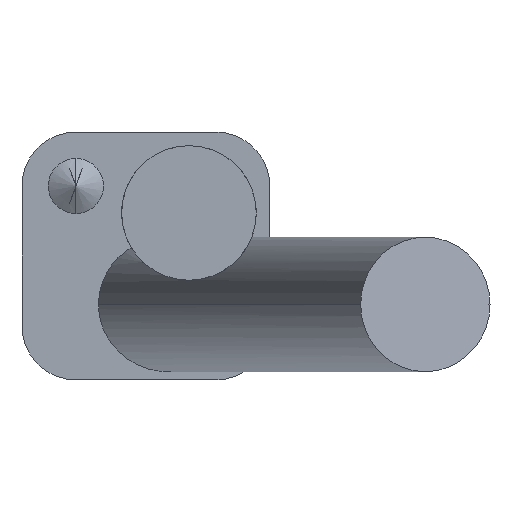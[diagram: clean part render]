
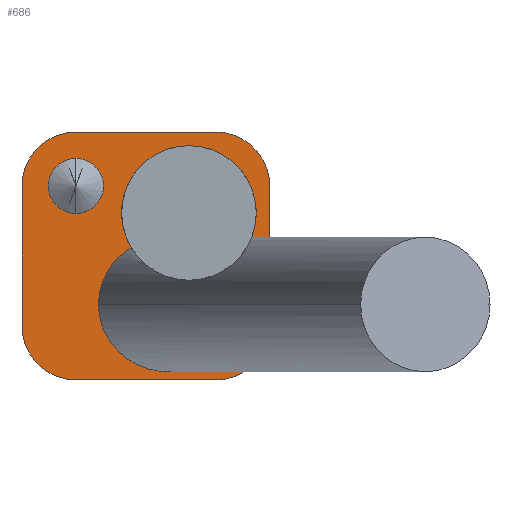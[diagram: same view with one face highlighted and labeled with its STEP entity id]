
A CAD part, front view. The second image highlights one B-rep face of the part: STEP entity #686.
In plain terms, the highlighted planar face has unit normal (0, -1, 0).
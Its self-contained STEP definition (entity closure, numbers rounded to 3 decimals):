
#2 = DIRECTION ( 'NONE',  ( 0., 0., -1. ) ) ;
#6 = EDGE_CURVE ( 'NONE', #66, #112, #7, .T. ) ;
#7 = CIRCLE ( 'NONE', #40, 10. ) ;
#11 = CARTESIAN_POINT ( 'NONE',  ( -13.012, 0., -13.012 ) ) ;
#12 = CIRCLE ( 'NONE', #601, 10. ) ;
#15 = AXIS2_PLACEMENT_3D ( 'NONE', #280, #339, #2 ) ;
#18 = LINE ( 'NONE', #375, #278 ) ;
#28 = ORIENTED_EDGE ( 'NONE', *, *, #127, .T. ) ;
#31 = CARTESIAN_POINT ( 'NONE',  ( -8.806, 0., -9. ) ) ;
#34 = PLANE ( 'NONE',  #434 ) ;
#39 = CARTESIAN_POINT ( 'NONE',  ( -13.012, 0., 13.012 ) ) ;
#40 = AXIS2_PLACEMENT_3D ( 'NONE', #395, #451, #190 ) ;
#50 = CARTESIAN_POINT ( 'NONE',  ( -2.726, 0., 1.581 ) ) ;
#53 = VECTOR ( 'NONE', #532, 1000. ) ;
#66 = VERTEX_POINT ( 'NONE', #556 ) ;
#68 = ORIENTED_EDGE ( 'NONE', *, *, #459, .T. ) ;
#70 = CARTESIAN_POINT ( 'NONE',  ( -13., 0., 13. ) ) ;
#78 = DIRECTION ( 'NONE',  ( 0., 0., -1. ) ) ;
#82 = CIRCLE ( 'NONE', #210, 12.5 ) ;
#93 = VERTEX_POINT ( 'NONE', #636 ) ;
#96 = CARTESIAN_POINT ( 'NONE',  ( 17.201, 0., -9. ) ) ;
#99 = DIRECTION ( 'NONE',  ( 0., 0., -1. ) ) ;
#100 = CARTESIAN_POINT ( 'NONE',  ( 13.012, 0., 23.012 ) ) ;
#102 = CARTESIAN_POINT ( 'NONE',  ( -23.012, 0., 13.012 ) ) ;
#105 = EDGE_CURVE ( 'NONE', #616, #488, #82, .T. ) ;
#110 = LINE ( 'NONE', #662, #53 ) ;
#112 = VERTEX_POINT ( 'NONE', #519 ) ;
#127 = EDGE_CURVE ( 'NONE', #382, #93, #697, .T. ) ;
#128 = CIRCLE ( 'NONE', #15, 10. ) ;
#147 = VERTEX_POINT ( 'NONE', #587 ) ;
#149 =( BOUNDED_CURVE ( )  B_SPLINE_CURVE ( 3, ( #239, #284, #385, #170 ),
 .UNSPECIFIED., .F., .T. ) 
 B_SPLINE_CURVE_WITH_KNOTS ( ( 4, 4 ),
 ( 2.572, 3.142 ),
 .UNSPECIFIED. ) 
 CURVE ( )  GEOMETRIC_REPRESENTATION_ITEM ( )  RATIONAL_B_SPLINE_CURVE ( ( 1., 0.973, 0.973, 1. ) ) 
 REPRESENTATION_ITEM ( '' )  );
#150 = AXIS2_PLACEMENT_3D ( 'NONE', #226, #424, #602 ) ;
#151 = CARTESIAN_POINT ( 'NONE',  ( 8., 0., 20.5 ) ) ;
#159 = EDGE_CURVE ( 'NONE', #147, #112, #291, .T. ) ;
#160 = CARTESIAN_POINT ( 'NONE',  ( -23.012, 0., -13.012 ) ) ;
#162 = CIRCLE ( 'NONE', #150, 12.5 ) ;
#170 = CARTESIAN_POINT ( 'NONE',  ( 17.201, 0., -9. ) ) ;
#188 = EDGE_LOOP ( 'NONE', ( #343, #68, #28, #684, #500 ) ) ;
#190 = DIRECTION ( 'NONE',  ( 0., 0., -1. ) ) ;
#192 = FACE_BOUND ( 'NONE', #188, .T. ) ;
#197 = CARTESIAN_POINT ( 'NONE',  ( 17.201, 0., -9. ) ) ;
#198 = CARTESIAN_POINT ( 'NONE',  ( 17.201, 0., -34. ) ) ;
#199 = EDGE_CURVE ( 'NONE', #265, #318, #282, .T. ) ;
#207 = CARTESIAN_POINT ( 'NONE',  ( -13., 0., 13. ) ) ;
#210 = AXIS2_PLACEMENT_3D ( 'NONE', #676, #308, #78 ) ;
#216 = CARTESIAN_POINT ( 'NONE',  ( -13.012, 0., -23.012 ) ) ;
#226 = CARTESIAN_POINT ( 'NONE',  ( 8., 0., 8. ) ) ;
#236 = ORIENTED_EDGE ( 'NONE', *, *, #554, .F. ) ;
#239 = CARTESIAN_POINT ( 'NONE',  ( 15.146, 0., -2.256 ) ) ;
#258 = CARTESIAN_POINT ( 'NONE',  ( -8.806, 0., -34. ) ) ;
#265 = VERTEX_POINT ( 'NONE', #657 ) ;
#271 = AXIS2_PLACEMENT_3D ( 'NONE', #11, #404, #401 ) ;
#278 = VECTOR ( 'NONE', #327, 1000. ) ;
#280 = CARTESIAN_POINT ( 'NONE',  ( 13.012, 0., 13.012 ) ) ;
#282 = LINE ( 'NONE', #582, #371 ) ;
#284 = CARTESIAN_POINT ( 'NONE',  ( 16.497, 0., -4.283 ) ) ;
#291 = LINE ( 'NONE', #471, #672 ) ;
#299 = FACE_OUTER_BOUND ( 'NONE', #703, .T. ) ;
#304 = EDGE_CURVE ( 'NONE', #265, #452, #12, .T. ) ;
#308 = DIRECTION ( 'NONE',  ( 0., -1., 0. ) ) ;
#309 = EDGE_LOOP ( 'NONE', ( #236, #701 ) ) ;
#310 = ORIENTED_EDGE ( 'NONE', *, *, #493, .T. ) ;
#318 = VERTEX_POINT ( 'NONE', #100 ) ;
#327 = DIRECTION ( 'NONE',  ( 0., 0., 1. ) ) ;
#328 = CARTESIAN_POINT ( 'NONE',  ( -13., 0., 7.875 ) ) ;
#330 = AXIS2_PLACEMENT_3D ( 'NONE', #207, #583, #647 ) ;
#339 = DIRECTION ( 'NONE',  ( 0., -1., 0. ) ) ;
#343 = ORIENTED_EDGE ( 'NONE', *, *, #730, .F. ) ;
#348 = AXIS2_PLACEMENT_3D ( 'NONE', #70, #562, #510 ) ;
#370 = DIRECTION ( 'NONE',  ( 1., 0., 0. ) ) ;
#371 = VECTOR ( 'NONE', #370, 1000. ) ;
#375 = CARTESIAN_POINT ( 'NONE',  ( -23.012, 0., 23.012 ) ) ;
#382 = VERTEX_POINT ( 'NONE', #96 ) ;
#385 = CARTESIAN_POINT ( 'NONE',  ( 17.201, 0., -6.593 ) ) ;
#390 = VERTEX_POINT ( 'NONE', #328 ) ;
#395 = CARTESIAN_POINT ( 'NONE',  ( 13.012, 0., -13.012 ) ) ;
#400 = ORIENTED_EDGE ( 'NONE', *, *, #6, .T. ) ;
#401 = DIRECTION ( 'NONE',  ( 0., 0., -1. ) ) ;
#404 = DIRECTION ( 'NONE',  ( 0., -1., 0. ) ) ;
#409 =( BOUNDED_CURVE ( )  B_SPLINE_CURVE ( 3, ( #425, #492, #673, #667 ),
 .UNSPECIFIED., .F., .F. ) 
 B_SPLINE_CURVE_WITH_KNOTS ( ( 4, 4 ),
 ( 0., 1.009 ),
 .UNSPECIFIED. ) 
 CURVE ( )  GEOMETRIC_REPRESENTATION_ITEM ( )  RATIONAL_B_SPLINE_CURVE ( ( 1., 0.917, 0.917, 1. ) ) 
 REPRESENTATION_ITEM ( '' )  );
#424 = DIRECTION ( 'NONE',  ( 0., -1., 0. ) ) ;
#425 = CARTESIAN_POINT ( 'NONE',  ( -8.806, 0., -9. ) ) ;
#432 = ORIENTED_EDGE ( 'NONE', *, *, #199, .F. ) ;
#434 = AXIS2_PLACEMENT_3D ( 'NONE', #650, #435, #99 ) ;
#435 = DIRECTION ( 'NONE',  ( 0., -1., 0. ) ) ;
#445 = EDGE_CURVE ( 'NONE', #93, #488, #409, .T. ) ;
#451 = DIRECTION ( 'NONE',  ( 0., -1., 0. ) ) ;
#452 = VERTEX_POINT ( 'NONE', #102 ) ;
#459 = EDGE_CURVE ( 'NONE', #506, #382, #149, .T. ) ;
#460 = ORIENTED_EDGE ( 'NONE', *, *, #688, .F. ) ;
#471 = CARTESIAN_POINT ( 'NONE',  ( 23.012, 0., 23.012 ) ) ;
#482 = DIRECTION ( 'NONE',  ( 0., 0., -1. ) ) ;
#488 = VERTEX_POINT ( 'NONE', #50 ) ;
#492 = CARTESIAN_POINT ( 'NONE',  ( -8.806, 0., -4.605 ) ) ;
#493 = EDGE_CURVE ( 'NONE', #147, #318, #128, .T. ) ;
#496 = ORIENTED_EDGE ( 'NONE', *, *, #660, .F. ) ;
#500 = ORIENTED_EDGE ( 'NONE', *, *, #105, .F. ) ;
#501 = CARTESIAN_POINT ( 'NONE',  ( 15.146, 0., -2.256 ) ) ;
#506 = VERTEX_POINT ( 'NONE', #501 ) ;
#510 = DIRECTION ( 'NONE',  ( 0., 0., -1. ) ) ;
#514 = EDGE_CURVE ( 'NONE', #683, #634, #567, .T. ) ;
#519 = CARTESIAN_POINT ( 'NONE',  ( 23.012, 0., -13.012 ) ) ;
#523 = ORIENTED_EDGE ( 'NONE', *, *, #514, .T. ) ;
#532 = DIRECTION ( 'NONE',  ( -1., 0., 0. ) ) ;
#536 = DIRECTION ( 'NONE',  ( 0., -1., 0. ) ) ;
#548 = FACE_BOUND ( 'NONE', #309, .T. ) ;
#551 = ORIENTED_EDGE ( 'NONE', *, *, #304, .T. ) ;
#554 = EDGE_CURVE ( 'NONE', #627, #390, #699, .T. ) ;
#556 = CARTESIAN_POINT ( 'NONE',  ( 13.012, 0., -23.012 ) ) ;
#562 = DIRECTION ( 'NONE',  ( 0., -1., 0. ) ) ;
#567 = CIRCLE ( 'NONE', #271, 10. ) ;
#582 = CARTESIAN_POINT ( 'NONE',  ( -23.012, 0., 23.012 ) ) ;
#583 = DIRECTION ( 'NONE',  ( 0., -1., 0. ) ) ;
#587 = CARTESIAN_POINT ( 'NONE',  ( 23.012, 0., 13.012 ) ) ;
#590 = EDGE_CURVE ( 'NONE', #390, #627, #592, .T. ) ;
#592 = CIRCLE ( 'NONE', #330, 5.125 ) ;
#601 = AXIS2_PLACEMENT_3D ( 'NONE', #39, #536, #663 ) ;
#602 = DIRECTION ( 'NONE',  ( 0., 0., -1. ) ) ;
#616 = VERTEX_POINT ( 'NONE', #151 ) ;
#627 = VERTEX_POINT ( 'NONE', #727 ) ;
#634 = VERTEX_POINT ( 'NONE', #216 ) ;
#636 = CARTESIAN_POINT ( 'NONE',  ( -8.806, 0., -9. ) ) ;
#647 = DIRECTION ( 'NONE',  ( 0., 0., -1. ) ) ;
#650 = CARTESIAN_POINT ( 'NONE',  ( 0., 0., 0. ) ) ;
#657 = CARTESIAN_POINT ( 'NONE',  ( -13.012, 0., 23.012 ) ) ;
#660 = EDGE_CURVE ( 'NONE', #66, #634, #110, .T. ) ;
#662 = CARTESIAN_POINT ( 'NONE',  ( -23.012, 0., -23.012 ) ) ;
#663 = DIRECTION ( 'NONE',  ( 0., 0., -1. ) ) ;
#667 = CARTESIAN_POINT ( 'NONE',  ( -2.726, 0., 1.581 ) ) ;
#672 = VECTOR ( 'NONE', #482, 1000. ) ;
#673 = CARTESIAN_POINT ( 'NONE',  ( -6.596, 0., -0.759 ) ) ;
#676 = CARTESIAN_POINT ( 'NONE',  ( 8., 0., 8. ) ) ;
#683 = VERTEX_POINT ( 'NONE', #160 ) ;
#684 = ORIENTED_EDGE ( 'NONE', *, *, #445, .T. ) ;
#686 = ADVANCED_FACE ( 'NONE', ( #548, #192, #299 ), #34, .T. ) ;
#688 = EDGE_CURVE ( 'NONE', #683, #452, #18, .T. ) ;
#697 =( BOUNDED_CURVE ( )  B_SPLINE_CURVE ( 3, ( #197, #198, #258, #31 ),
 .UNSPECIFIED., .F., .T. ) 
 B_SPLINE_CURVE_WITH_KNOTS ( ( 4, 4 ),
 ( 3.142, 6.283 ),
 .UNSPECIFIED. ) 
 CURVE ( )  GEOMETRIC_REPRESENTATION_ITEM ( )  RATIONAL_B_SPLINE_CURVE ( ( 1., 0.333, 0.333, 1. ) ) 
 REPRESENTATION_ITEM ( '' )  );
#699 = CIRCLE ( 'NONE', #348, 5.125 ) ;
#701 = ORIENTED_EDGE ( 'NONE', *, *, #590, .F. ) ;
#703 = EDGE_LOOP ( 'NONE', ( #460, #523, #496, #400, #723, #310, #432, #551 ) ) ;
#723 = ORIENTED_EDGE ( 'NONE', *, *, #159, .F. ) ;
#727 = CARTESIAN_POINT ( 'NONE',  ( -13., 0., 18.125 ) ) ;
#730 = EDGE_CURVE ( 'NONE', #506, #616, #162, .T. ) ;
